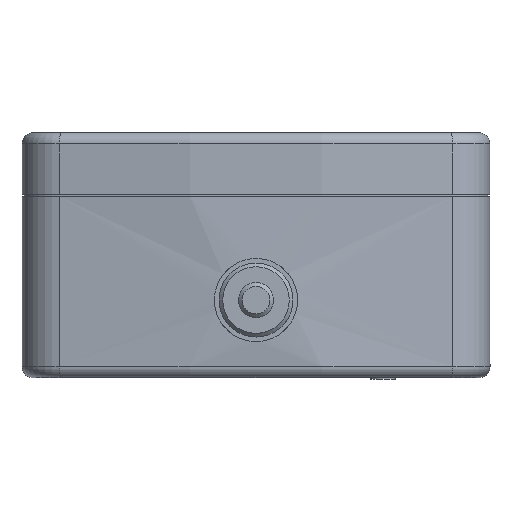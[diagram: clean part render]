
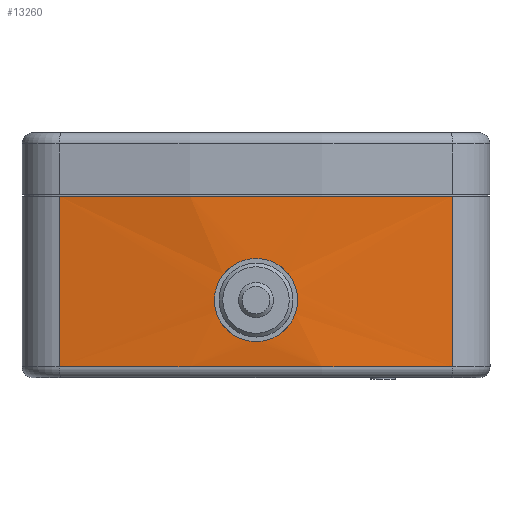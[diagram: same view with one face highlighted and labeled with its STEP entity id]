
A CAD part, front view. The second image highlights one B-rep face of the part: STEP entity #13260.
In plain terms, the highlighted cylindrical face has radius 139.7 mm (diameter 279.4 mm), a partial arc.
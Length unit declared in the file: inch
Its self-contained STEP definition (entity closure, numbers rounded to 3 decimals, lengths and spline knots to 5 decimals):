
#11079=CARTESIAN_POINT('',(2.32301,30.79588,7.14002));
#11080=VERTEX_POINT('',#11079);
#11088=CARTESIAN_POINT('',(4.44968,30.79588,7.14002));
#11089=VERTEX_POINT('',#11088);
#11090=CARTESIAN_POINT('',(3.38634,36.19212,7.14002));
#11091=DIRECTION('',(0.0,0.0,-1.0));
#11092=DIRECTION('',(1.0,0.0,0.0));
#11093=AXIS2_PLACEMENT_3D('',#11090,#11091,#11092);
#11094=CIRCLE('',#11093,5.5);
#11095=EDGE_CURVE('',#11089,#11080,#11094,.T.);
#13109=CARTESIAN_POINT('',(2.32301,30.79588,6.22002));
#13110=VERTEX_POINT('',#13109);
#13118=CARTESIAN_POINT('',(2.32301,30.79588,6.22002));
#13119=DIRECTION('',(0.0,0.0,1.0));
#13120=VECTOR('',#13119,0.92);
#13121=LINE('',#13118,#13120);
#13122=EDGE_CURVE('',#13110,#11080,#13121,.T.);
#13183=CARTESIAN_POINT('',(4.44968,30.79588,6.22002));
#13184=VERTEX_POINT('',#13183);
#13185=CARTESIAN_POINT('',(4.44968,30.79588,7.14002));
#13186=DIRECTION('',(0.0,0.0,-1.0));
#13187=VECTOR('',#13186,0.92);
#13188=LINE('',#13185,#13187);
#13189=EDGE_CURVE('',#11089,#13184,#13188,.T.);
#13202=CARTESIAN_POINT('',(3.38634,36.19212,6.78933));
#13203=DIRECTION('',(0.,0.,1.0));
#13204=DIRECTION('',(1.0,0.0,0.0));
#13205=AXIS2_PLACEMENT_3D('',#13202,#13203,#13204);
#13206=CYLINDRICAL_SURFACE('',#13205,5.5);
#13207=ORIENTED_EDGE('',*,*,#11095,.T.);
#13208=ORIENTED_EDGE('',*,*,#13122,.F.);
#13209=CARTESIAN_POINT('',(3.38634,36.19212,6.22002));
#13210=DIRECTION('',(0.0,0.0,-1.0));
#13211=DIRECTION('',(0.0,-1.0,0.0));
#13212=AXIS2_PLACEMENT_3D('',#13209,#13210,#13211);
#13213=CIRCLE('',#13212,5.5);
#13214=EDGE_CURVE('',#13184,#13110,#13213,.T.);
#13215=ORIENTED_EDGE('',*,*,#13214,.F.);
#13216=ORIENTED_EDGE('',*,*,#13189,.F.);
#13217=EDGE_LOOP('',(#13207,#13208,#13215,#13216));
#13218=FACE_OUTER_BOUND('',#13217,.T.);
#13219=CARTESIAN_POINT('',(3.61134,30.69672,6.58002));
#13220=VERTEX_POINT('',#13219);
#13221=CARTESIAN_POINT('',(3.61134,30.69672,6.58002));
#13222=CARTESIAN_POINT('',(3.61134,30.69672,6.55176));
#13223=CARTESIAN_POINT('',(3.6057,30.69648,6.52162));
#13224=CARTESIAN_POINT('',(3.58273,30.69561,6.46619));
#13225=CARTESIAN_POINT('',(3.56542,30.695,6.44089));
#13226=CARTESIAN_POINT('',(3.52547,30.69384,6.40094));
#13227=CARTESIAN_POINT('',(3.50017,30.69322,6.38363));
#13228=CARTESIAN_POINT('',(3.44473,30.69236,6.36066));
#13229=CARTESIAN_POINT('',(3.4146,30.69212,6.35502));
#13230=CARTESIAN_POINT('',(3.35809,30.69212,6.35502));
#13231=CARTESIAN_POINT('',(3.32795,30.69236,6.36066));
#13232=CARTESIAN_POINT('',(3.27252,30.69322,6.38363));
#13233=CARTESIAN_POINT('',(3.24722,30.69384,6.40094));
#13234=CARTESIAN_POINT('',(3.20727,30.695,6.44089));
#13235=CARTESIAN_POINT('',(3.18995,30.69561,6.46619));
#13236=CARTESIAN_POINT('',(3.16699,30.69648,6.52162));
#13237=CARTESIAN_POINT('',(3.16134,30.69672,6.55176));
#13238=CARTESIAN_POINT('',(3.16134,30.69672,6.60827));
#13239=CARTESIAN_POINT('',(3.16699,30.69648,6.63841));
#13240=CARTESIAN_POINT('',(3.18995,30.69561,6.69384));
#13241=CARTESIAN_POINT('',(3.20727,30.695,6.71914));
#13242=CARTESIAN_POINT('',(3.24722,30.69384,6.75909));
#13243=CARTESIAN_POINT('',(3.27252,30.69322,6.7764));
#13244=CARTESIAN_POINT('',(3.32795,30.69236,6.79937));
#13245=CARTESIAN_POINT('',(3.35809,30.69212,6.80502));
#13246=CARTESIAN_POINT('',(3.4146,30.69212,6.80502));
#13247=CARTESIAN_POINT('',(3.44473,30.69236,6.79937));
#13248=CARTESIAN_POINT('',(3.50017,30.69322,6.7764));
#13249=CARTESIAN_POINT('',(3.52547,30.69384,6.75909));
#13250=CARTESIAN_POINT('',(3.56542,30.695,6.71914));
#13251=CARTESIAN_POINT('',(3.58273,30.69561,6.69384));
#13252=CARTESIAN_POINT('',(3.6057,30.69648,6.63841));
#13253=CARTESIAN_POINT('',(3.61134,30.69672,6.60827));
#13254=CARTESIAN_POINT('',(3.61134,30.69672,6.58002));
#13255=B_SPLINE_CURVE_WITH_KNOTS('',3,(#13221,#13222,#13223,#13224,#13225,#13226,#13227,#13228,#13229,#13230,#13231,#13232,#13233,#13234,#13235,#13236,#13237,#13238,#13239,#13240,#13241,#13242,#13243,#13244,#13245,#13246,#13247,#13248,#13249,#13250,#13251,#13252,#13253,#13254),.UNSPECIFIED.,.T.,.U.,(4,2,2,2,2,2,2,2,2,2,2,2,2,2,2,2,4),(0.0,0.08476,0.16953,0.25429,0.33906,0.42382,0.50859,0.59335,0.67812,0.76288,0.84765,0.93241,1.01718,1.10194,1.18671,1.27147,1.35623),.UNSPECIFIED.);
#13256=EDGE_CURVE('',#13220,#13220,#13255,.T.);
#13257=ORIENTED_EDGE('',*,*,#13256,.T.);
#13258=EDGE_LOOP('',(#13257));
#13259=FACE_BOUND('',#13258,.T.);
#13260=ADVANCED_FACE('',(#13218,#13259),#13206,.T.);
